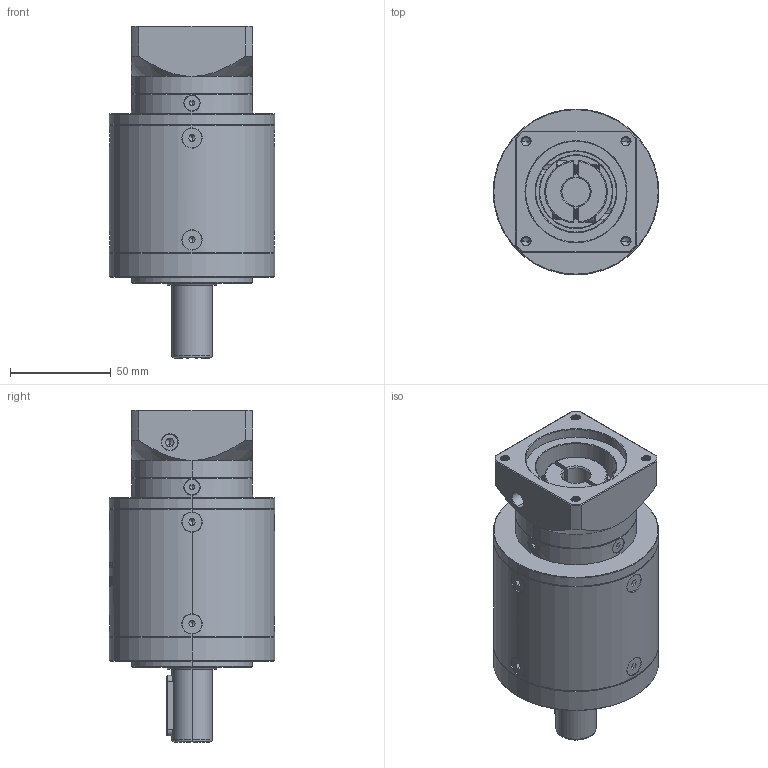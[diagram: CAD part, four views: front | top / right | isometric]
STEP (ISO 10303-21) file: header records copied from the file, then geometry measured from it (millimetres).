
FILE_DESCRIPTION (( 'STEP AP214' ), '1' );
FILE_NAME ('ZE80-D20-L3-14-50-70-M5.step', '2022-05-08T06:01:35', ( '' ), ( 'Microsoft' ), 'SwSTEP 2.0', 'SolidWorks 2016', '' );
FILE_SCHEMA (( 'AUTOMOTIVE_DESIGN' ));
Length unit declared in the file: millimetre
Products named in the file (1): ZE80-D20-L3-14-50-70-M5
Bounding box: 82 x 82 x 164.5 mm (x, y, z)
Volume: 545908.7 mm3; surface area: 69451.4 mm2
Topology: 18 solids, 18 shells, 2127 faces, 5599 edges, 3563 vertices
Faces by surface type: plane 943, cylinder 517, bspline 340, cone 313, torus 14
Entity records: 121625 total; most frequent: CARTESIAN_POINT 49933, ORIENTED_EDGE 11106, DIRECTION 8635, EDGE_CURVE 5553, VERTEX_POINT 3563, LINE 2961, VECTOR 2961, AXIS2_PLACEMENT_3D 2837
